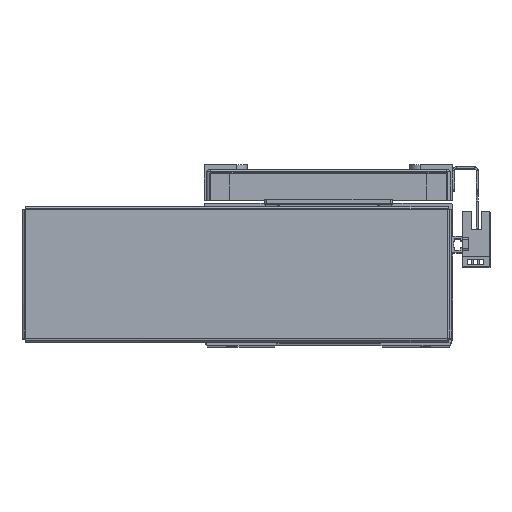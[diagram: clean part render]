
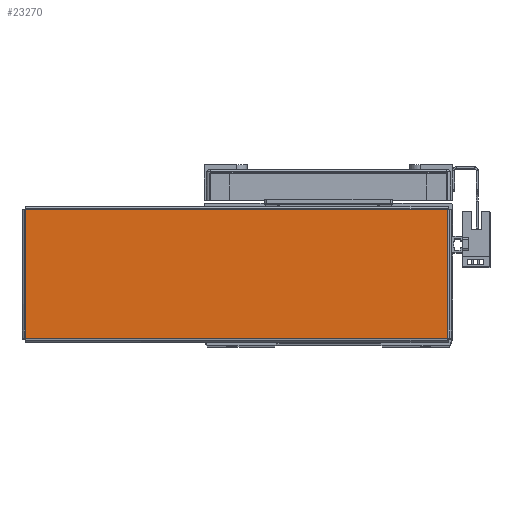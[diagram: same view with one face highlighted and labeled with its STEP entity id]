
A CAD part, top view. The second image highlights one B-rep face of the part: STEP entity #23270.
In plain terms, the highlighted planar face has unit normal (0, 0, 1) as drawn and (0, -1, 0) by its records, which use the part's own axes.
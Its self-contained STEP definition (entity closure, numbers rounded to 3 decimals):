
#7197 = FACE_OUTER_BOUND ( 'NONE', #43595, .T. ) ;
#7866 = DIRECTION ( 'NONE',  ( 0., 1., 0. ) ) ;
#7898 = DIRECTION ( 'NONE',  ( 0., 0., 1. ) ) ;
#7910 = PLANE ( 'NONE',  #32597 ) ;
#7923 = CARTESIAN_POINT ( 'NONE',  ( 0., -1., 0. ) ) ;
#22337 = DIRECTION ( 'NONE',  ( 1., 0., 0. ) ) ;
#22342 = CARTESIAN_POINT ( 'NONE',  ( -103.793, -1., -31.763 ) ) ;
#23270 = ADVANCED_FACE ( 'NONE', ( #7197 ), #7910, .F. ) ;
#31748 = EDGE_CURVE ( 'NONE', #47781, #47788, #34684, .T. ) ;
#31779 = EDGE_CURVE ( 'NONE', #47745, #47781, #34664, .T. ) ;
#31802 = EDGE_CURVE ( 'NONE', #47788, #47834, #34779, .T. ) ;
#31830 = EDGE_CURVE ( 'NONE', #47834, #47745, #34840, .T. ) ;
#32597 = AXIS2_PLACEMENT_3D ( 'NONE', #7923, #7866, #7898 ) ;
#33195 = ORIENTED_EDGE ( 'NONE', *, *, #31802, .T. ) ;
#33248 = ORIENTED_EDGE ( 'NONE', *, *, #31779, .T. ) ;
#33261 = ORIENTED_EDGE ( 'NONE', *, *, #31830, .T. ) ;
#33279 = ORIENTED_EDGE ( 'NONE', *, *, #31748, .T. ) ;
#34602 = VECTOR ( 'NONE', #44030, 1000. ) ;
#34664 = LINE ( 'NONE', #44123, #34670 ) ;
#34670 = VECTOR ( 'NONE', #44101, 1000. ) ;
#34684 = LINE ( 'NONE', #44018, #34602 ) ;
#34707 = VECTOR ( 'NONE', #44175, 1000. ) ;
#34779 = LINE ( 'NONE', #44174, #34707 ) ;
#34827 = VECTOR ( 'NONE', #22337, 1000. ) ;
#34840 = LINE ( 'NONE', #22342, #34827 ) ;
#37962 = CARTESIAN_POINT ( 'NONE',  ( 103.763, -1., -31.763 ) ) ;
#38003 = CARTESIAN_POINT ( 'NONE',  ( -103.763, -1., -31.763 ) ) ;
#38045 = CARTESIAN_POINT ( 'NONE',  ( -103.763, -1., 31.763 ) ) ;
#38062 = CARTESIAN_POINT ( 'NONE',  ( 103.763, -1., 31.763 ) ) ;
#43595 = EDGE_LOOP ( 'NONE', ( #33279, #33195, #33261, #33248 ) ) ;
#44018 = CARTESIAN_POINT ( 'NONE',  ( 103.793, -1., 31.763 ) ) ;
#44030 = DIRECTION ( 'NONE',  ( -1., 0., 0. ) ) ;
#44101 = DIRECTION ( 'NONE',  ( 0., 0., 1. ) ) ;
#44123 = CARTESIAN_POINT ( 'NONE',  ( 103.763, -1., -31.793 ) ) ;
#44174 = CARTESIAN_POINT ( 'NONE',  ( -103.763, -1., 31.793 ) ) ;
#44175 = DIRECTION ( 'NONE',  ( 0., 0., -1. ) ) ;
#47745 = VERTEX_POINT ( 'NONE', #37962 ) ;
#47781 = VERTEX_POINT ( 'NONE', #38062 ) ;
#47788 = VERTEX_POINT ( 'NONE', #38045 ) ;
#47834 = VERTEX_POINT ( 'NONE', #38003 ) ;
